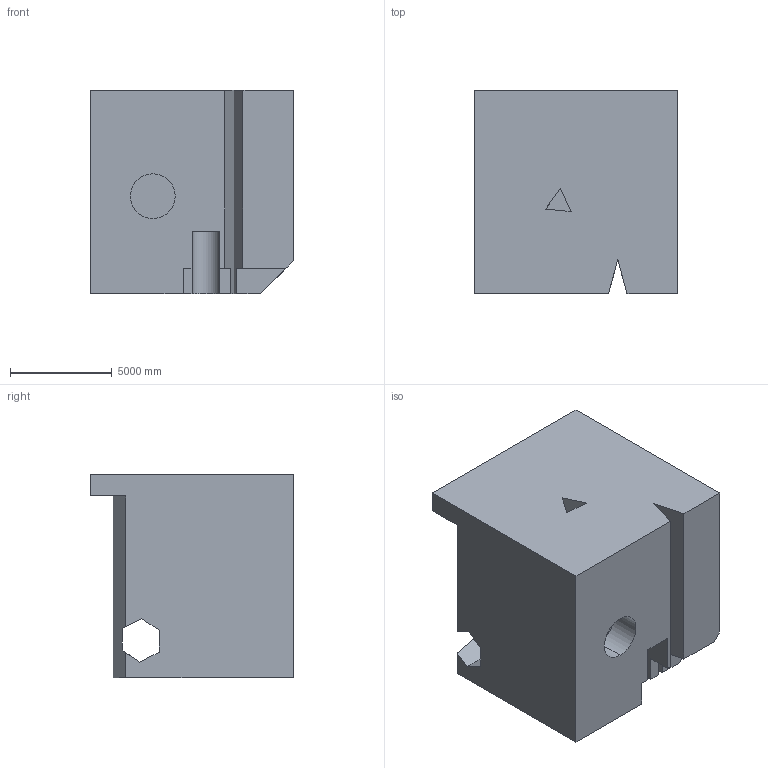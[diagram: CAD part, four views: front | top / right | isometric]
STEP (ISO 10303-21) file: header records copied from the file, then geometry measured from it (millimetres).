
FILE_DESCRIPTION (( 'STEP AP203' ), '1' );
FILE_NAME ('1707.STEP', '2022-08-19T11:55:12', ( 'user' ), ( '' ), 'SwSTEP 2.0', 'SolidWorks 2021', '' );
FILE_SCHEMA (( 'CONFIG_CONTROL_DESIGN' ));
Length unit declared in the file: centimetre
Products named in the file (1): 1707
Bounding box: 10000 x 10000 x 10000 mm (x, y, z)
Volume: 804581037953.8 mm3; surface area: 666489358.9 mm2
Topology: 1 solids, 1 shells, 37 faces, 105 edges, 70 vertices
Faces by surface type: plane 34, cylinder 3
Entity records: 1266 total; most frequent: CARTESIAN_POINT 213, ORIENTED_EDGE 210, DIRECTION 187, EDGE_CURVE 105, VECTOR 99, LINE 99, VERTEX_POINT 70, AXIS2_PLACEMENT_3D 44
